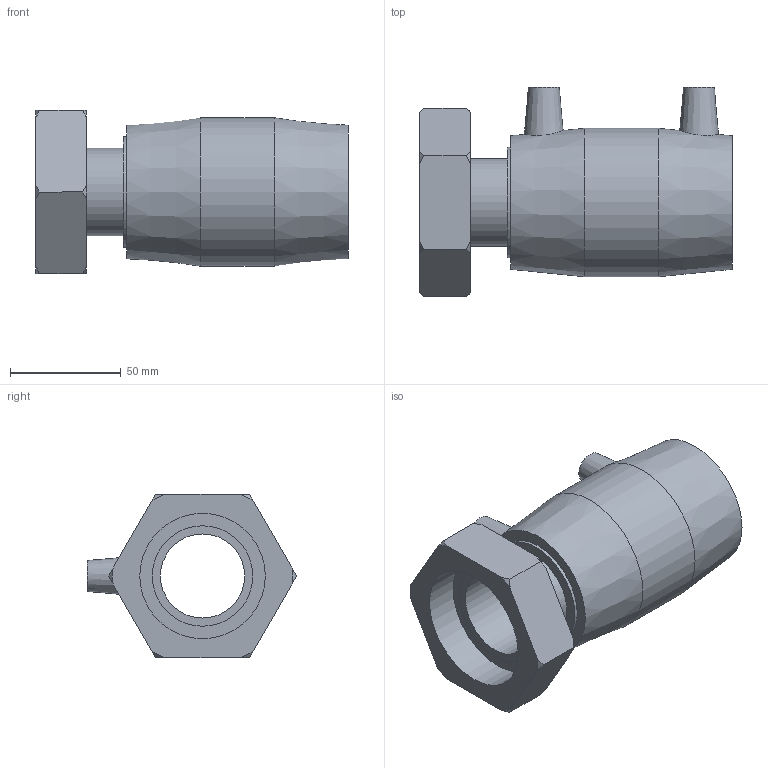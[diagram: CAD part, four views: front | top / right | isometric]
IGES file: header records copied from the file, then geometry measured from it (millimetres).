
Global section: file name: 494104050020.ipt; native system: Autodesk Inventor 2015; preprocessor: unknown; author: KIM; date: 20171106.094132; units: millimetre
Bounding box: 141 x 94.49 x 73.6 mm (x, y, z)
Volume: 244277.2 mm3; surface area: 64379.3 mm2
Topology: 1 solids, 2 shells, 54 faces, 128 edges, 88 vertices
Faces by surface type: plane 22, cone 16, revolution 9, cylinder 7
Full cylindrical faces by diameter (mm): 4 x2, 39.659 x1, 45.325 x1, 50 x2, 67 x1
